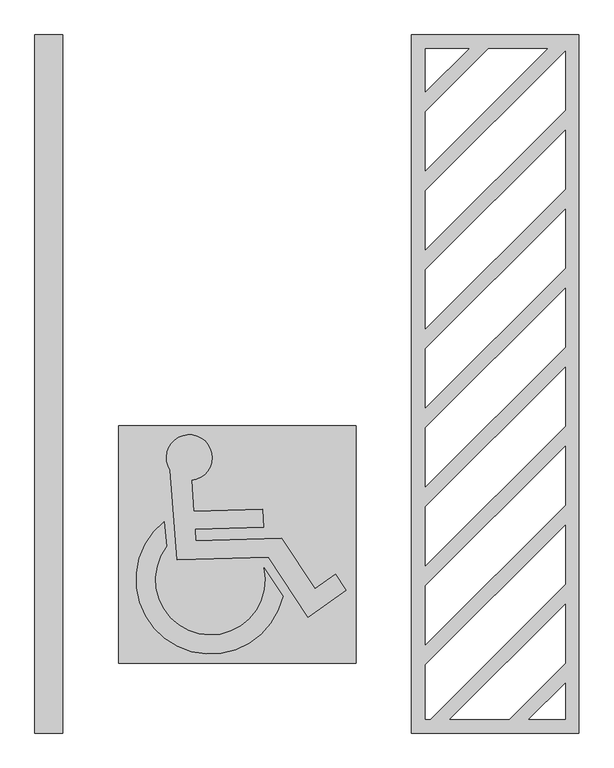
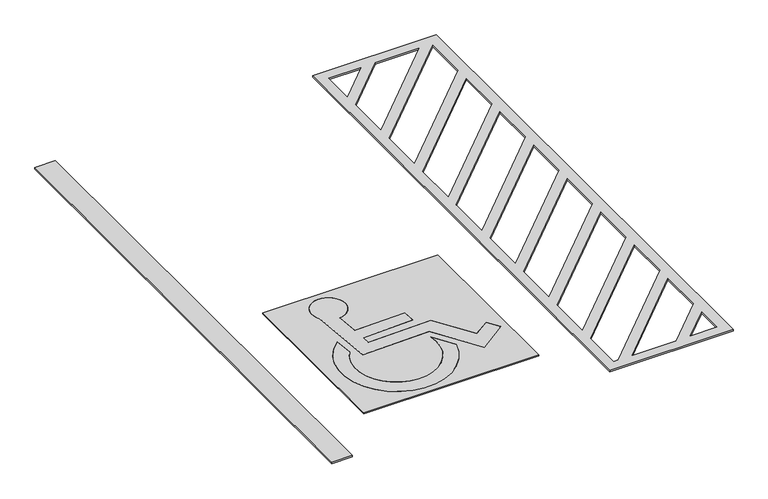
"""IFC4 building model written with IfcOpenShell, lengths in millimetres: proxy geometry, FDE_SI11_SinalizaçãoHorizontalParaVagaAcessível_Vagaa90º : SI11_SinalizaçãoHorizontalParaVagaAcessível_Vagaa90º."""

import ifcopenshell
import ifcopenshell.guid

model = None  # the IFC model being written
_history = None  # IfcOwnerHistory: only IFC2X3 demands one
_inside = {}  # id of a spatial element -> (the spatial element, [elements in it])
_under = {}  # id of a project, library or spatial element -> (it, [spatial elements below it])
_declared = {}  # id of a project -> (the project, [libraries it declares])
_typed = {}  # id of a type object -> (the type object, [elements of that type])
_made_of = {}  # id of a material, layer set ... -> (it, [elements and type objects made of it])


def new_model(schema):
    """Start an empty IFC model of exactly this schema.

    Asked for "IFC4X3", IfcOpenShell would pick the latest addendum, in which some entities
    have other attributes; the version numbers below select the first issue.
    IFC2X3 requires an IfcOwnerHistory on every rooted entity: one is made here for all.
    """
    global model, _history
    if schema == "IFC4X3":
        model = ifcopenshell.file(schema_version=(4, 3, 0, 0))
    else:
        model = ifcopenshell.file(schema=schema)
    _inside.clear()
    _under.clear()
    _declared.clear()
    _typed.clear()
    _made_of.clear()
    _history = None
    if model.schema == "IFC2X3":
        org = make("IfcOrganization", Name="unknown")
        user = make(
            "IfcPersonAndOrganization",
            ThePerson=make("IfcPerson", FamilyName="unknown"),
            TheOrganization=org,
        )
        app = make(
            "IfcApplication",
            ApplicationDeveloper=org,
            Version="unknown",
            ApplicationFullName="unknown",
            ApplicationIdentifier="unknown",
        )
        _history = make(
            "IfcOwnerHistory",
            OwningUser=user,
            OwningApplication=app,
            ChangeAction="ADDED",
            CreationDate=0,
        )
    return model


def make(cls, **values):
    """One entity of the class cls with the attributes given. An attribute that is None is left unset."""
    return model.create_entity(
        cls, **{name: value for name, value in values.items() if value is not None}
    )


def rooted(cls, **values):
    """An entity with a GlobalId (a new one), such as an element, a storey or a relation."""
    return make(cls, GlobalId=ifcopenshell.guid.new(), OwnerHistory=_history, **values)


def si_unit(unit_type, name, prefix=None):
    """IfcSIUnit, for example si_unit("LENGTHUNIT", "METRE", prefix="MILLI")."""
    return make("IfcSIUnit", UnitType=unit_type, Prefix=prefix, Name=name)


def assignment(units):
    """IfcUnitAssignment: the units of a project."""
    return None if units is None else make("IfcUnitAssignment", Units=units)


def point(xyz):
    """IfcCartesianPoint."""
    return None if xyz is None else make("IfcCartesianPoint", Coordinates=xyz)


def direction(xyz):
    """IfcDirection."""
    return None if xyz is None else make("IfcDirection", DirectionRatios=xyz)


def frame(location, z_axis=None, x_axis=None):
    """IfcAxis2Placement3D, a coordinate frame: its origin and axes. An axis left out is left unset."""
    return make(
        "IfcAxis2Placement3D",
        Location=point(location),
        Axis=direction(z_axis),
        RefDirection=direction(x_axis),
    )


def frame_2d(location, x_axis=None):
    """IfcAxis2Placement2D, a coordinate frame in the plane: its origin and x axis."""
    return make(
        "IfcAxis2Placement2D", Location=point(location), RefDirection=direction(x_axis)
    )


def origin():
    """The frame at (0, 0, 0) with its axes left unset."""
    return frame((0.0, 0.0, 0.0))


def origin_with_axes():
    """The frame at (0, 0, 0) with the z axis (0, 0, 1) and the x axis (1, 0, 0) written out."""
    return frame((0.0, 0.0, 0.0), z_axis=(0.0, 0.0, 1.0), x_axis=(1.0, 0.0, 0.0))


def place(relative_to, where):
    """IfcLocalPlacement: puts the frame where relative to a parent placement (None: the world)."""
    return make(
        "IfcLocalPlacement", PlacementRelTo=relative_to, RelativePlacement=where
    )


def context(
    kind, dimensions, precision=None, world=None, true_north=None, identifier=None
):
    """IfcGeometricRepresentationContext, for example the 3D "Model" context."""
    return make(
        "IfcGeometricRepresentationContext",
        ContextIdentifier=identifier,
        ContextType=kind,
        CoordinateSpaceDimension=dimensions,
        Precision=precision,
        WorldCoordinateSystem=world,
        TrueNorth=true_north,
    )


def project(units=None, contexts=None):
    """IfcProject with its units and contexts."""
    return rooted(
        "IfcProject",
        Name="project",
        RepresentationContexts=contexts,
        UnitsInContext=assignment(units),
    )


def spatial(cls, under=None, at=None, **own):
    """A site, building, storey or space (cls), placed at a placement, below another one or the project."""
    s = rooted(cls, ObjectPlacement=at, **own)
    if under is not None:
        _under.setdefault(under.id(), (under, []))[1].append(s)
    return s


def polyline(points):
    """IfcPolyline through the points."""
    return make("IfcPolyline", Points=[point(p) for p in points])


def circle_curve(where, radius):
    """IfcCircle in the frame where."""
    return make("IfcCircle", Position=where, Radius=radius)


def trimmed(basis, trim1, trim2, sense, master):
    """IfcTrimmedCurve: the piece of a basis curve between two trims."""
    return make(
        "IfcTrimmedCurve",
        BasisCurve=basis,
        Trim1=trim1,
        Trim2=trim2,
        SenseAgreement=sense,
        MasterRepresentation=master,
    )


def segment(curve, same_sense, transition):
    """IfcCompositeCurveSegment."""
    return make(
        "IfcCompositeCurveSegment",
        Transition=transition,
        SameSense=same_sense,
        ParentCurve=curve,
    )


def composite_curve(segments, self_intersect=None):
    """IfcCompositeCurve: segments joined end to end."""
    return make("IfcCompositeCurve", Segments=segments, SelfIntersect=self_intersect)


def outline(outer, holes=None, kind="AREA"):
    """IfcArbitraryClosedProfileDef: a profile drawn as a closed curve; with holes, ...WithVoids."""
    if holes is None:
        return make("IfcArbitraryClosedProfileDef", ProfileType=kind, OuterCurve=outer)
    return make(
        "IfcArbitraryProfileDefWithVoids",
        ProfileType=kind,
        OuterCurve=outer,
        InnerCurves=holes,
    )


def extrude(swept, where, along, depth):
    """IfcExtrudedAreaSolid: the profile swept, set in the frame where, extruded along a direction by depth."""
    return make(
        "IfcExtrudedAreaSolid",
        SweptArea=swept,
        Position=where,
        ExtrudedDirection=direction(along),
        Depth=depth,
    )


def shape(context_of_items, identifier, shape_type, items):
    """IfcShapeRepresentation: the items that make up one representation, for example the "Body"."""
    return make(
        "IfcShapeRepresentation",
        ContextOfItems=context_of_items,
        RepresentationIdentifier=identifier,
        RepresentationType=shape_type,
        Items=items,
    )


def source(mapping_origin, context_of_items, identifier, shape_type, items):
    """IfcRepresentationMap: a shape defined once, which mapped items show again and again."""
    return make(
        "IfcRepresentationMap",
        MappingOrigin=mapping_origin,
        MappedRepresentation=shape(context_of_items, identifier, shape_type, items),
    )


def transform(
    local_origin,
    x_axis=None,
    y_axis=None,
    z_axis=None,
    scale=None,
    scale2=None,
    scale3=None,
    uniform=True,
):
    """IfcCartesianTransformationOperator3D, or its non-uniform kind. x_axis, y_axis, z_axis: its Axis1, 2, 3."""
    if uniform:
        return make(
            "IfcCartesianTransformationOperator3D",
            Axis1=direction(x_axis),
            Axis2=direction(y_axis),
            LocalOrigin=point(local_origin),
            Scale=scale,
            Axis3=direction(z_axis),
        )
    return make(
        "IfcCartesianTransformationOperator3DnonUniform",
        Axis1=direction(x_axis),
        Axis2=direction(y_axis),
        LocalOrigin=point(local_origin),
        Scale=scale,
        Axis3=direction(z_axis),
        Scale2=scale2,
        Scale3=scale3,
    )


def mapped(mapping_source, mapping_target):
    """IfcMappedItem: shows the shape of a source again, moved by a transform."""
    return make(
        "IfcMappedItem", MappingSource=mapping_source, MappingTarget=mapping_target
    )


def made_of(thing, what):
    """Note that an element or type object is made of a material, layer set ...; save() writes the relation."""
    if what is not None:
        _made_of.setdefault(what.id(), (what, []))[1].append(thing)
    return thing


def element(
    cls,
    number,
    at=None,
    inside=None,
    cuts=None,
    type_object=None,
    material=None,
    context=None,
    identifier="Body",
    shape_type=None,
    held_by="IfcProductDefinitionShape",
    body=None,
    shapes=None,
    **own,
):
    """One element of the class cls, such as IfcWall. Its Tag is "e" and its number.

    at: its placement. inside: the storey or other place that contains it. cuts: it is an
    opening in that element (IfcRelVoidsElement). A single representation is given by context,
    identifier, shape_type and body (its items); several are given by shapes. held_by: the class
    of the entity that holds the representations. save() writes the other relations.
    """
    e = rooted(cls, Tag="e%d" % number, ObjectPlacement=at, **own)
    if body is not None:
        shapes = [shape(context, identifier, shape_type, body)]
    if shapes is not None:
        e.Representation = make(held_by, Representations=shapes)
    if inside is not None:
        _inside.setdefault(inside.id(), (inside, []))[1].append(e)
    if cuts is not None:
        rooted(
            "IfcRelVoidsElement", RelatingBuildingElement=cuts, RelatedOpeningElement=e
        )
    if type_object is not None:
        _typed.setdefault(type_object.id(), (type_object, []))[1].append(e)
    return made_of(e, material)


def aggregate(whole, parts):
    """IfcRelAggregates: a whole, such as a stair, and the parts it consists of."""
    return rooted("IfcRelAggregates", RelatingObject=whole, RelatedObjects=parts)


def save(model, path):
    """Write the relations noted so far, then the file.

    IfcRelAggregates (storeys below a building ...), IfcRelContainedInSpatialStructure (elements
    in a storey), IfcRelDefinesByType, IfcRelAssociatesMaterial and IfcRelDeclares: one each for
    every whole, place, type object, material and project.
    """
    for whole, parts in _under.values():
        aggregate(whole, parts)
    for where, things in _inside.values():
        rooted(
            "IfcRelContainedInSpatialStructure",
            RelatedElements=things,
            RelatingStructure=where,
        )
    for kind, things in _typed.values():
        rooted("IfcRelDefinesByType", RelatedObjects=things, RelatingType=kind)
    for what, things in _made_of.values():
        rooted("IfcRelAssociatesMaterial", RelatedObjects=things, RelatingMaterial=what)
    for by, libraries in _declared.values():
        rooted("IfcRelDeclares", RelatingContext=by, RelatedDefinitions=libraries)
    model.write(path)


def parking_89ea5a63(model_context):
    return source(origin(), model_context, "Body", "SweptSolid", [
        extrude(outline(composite_curve([segment(polyline([(466.0892817, 238.6752507), (482.4183166, 16.3738832), (976.5566523, 31.4662393), (983.0302344, -95.7406497), (491.0496435, -112.9889866), (495.3651331, -192.7628266), (1110.3408283, -175.5143917), (1349.8578024, -537.7305449), (1498.7465396, -434.2402294), (1574.2917736, -547.3782535), (1301.8411568, -741.2047078), (1017.5550204, -311.3454981), (361.5809572, -328.5938351), (313.1127907, 311.5071546)]), True, "CONTINUOUS"), segment(trimmed(circle_curve(frame_2d((449.7922278, 401.5170792)), 163.6552935), [point((313.1127907, 311.5071546))], [point((466.0892817, 238.6752507))], False, "CARTESIAN"), True, "CONTINUOUS")], self_intersect=False)), origin_with_axes(), (0.0, 0.0, 1.0), 10.0),
        extrude(outline(composite_curve([segment(polyline([(986.7985212, -385.6313806), (1120.621311, -590.1344765)]), True, "CONTINUOUS"), segment(trimmed(circle_curve(frame_2d((601.3448089, -473.4348166)), 532.228237), [point((1120.621311, -590.1344765))], [point((270.3796158, -56.6267826))], False, "CARTESIAN"), True, "CONTINUOUS"), segment(polyline([(270.3796158, -56.6267826), (287.3317476, -233.2686136)]), True, "CONTINUOUS"), segment(trimmed(circle_curve(frame_2d((601.3448089, -473.4348166)), 395.3277219), [point((287.3317476, -233.2686136))], [point((986.7985212, -385.6313806))], True, "CARTESIAN"), True, "CONTINUOUS")], self_intersect=False)), origin_with_axes(), (0.0, 0.0, 1.0), 10.0),
        extrude(outline(polyline([(1643.4697276, 628.6081133), (1643.4697276, -1071.3918867), (-56.5302724, -1071.3918867), (-56.5302724, 628.6081133), (1643.4697276, 628.6081133)]), holes=[composite_curve([segment(polyline([(482.4183166, 16.3738832), (466.0892817, 238.6752507)]), True, "CONTINUOUS"), segment(trimmed(circle_curve(frame_2d((449.7922278, 401.5170792)), 163.6552935), [point((466.0892817, 238.6752507))], [point((313.1127907, 311.5071546))], True, "CARTESIAN"), True, "CONTINUOUS"), segment(polyline([(313.1127907, 311.5071546), (361.5809572, -328.5938351), (1017.5550204, -311.3454981), (1301.8411568, -741.2047078), (1574.2917736, -547.3782535), (1498.7465396, -434.2402294), (1349.8578024, -537.7305449), (1110.3408283, -175.5143917), (495.3651331, -192.7628266), (491.0496435, -112.9889866), (983.0302344, -95.7406497), (976.5566523, 31.4662393), (482.4183166, 16.3738832)]), True, "CONTINUOUS")], self_intersect=False), composite_curve([segment(polyline([(287.3317476, -233.2686136), (270.3796158, -56.6267826)]), True, "CONTINUOUS"), segment(trimmed(circle_curve(frame_2d((601.3448089, -473.4348166)), 532.228237), [point((270.3796158, -56.6267826))], [point((1120.621311, -590.1344765))], True, "CARTESIAN"), True, "CONTINUOUS"), segment(polyline([(1120.621311, -590.1344765), (986.7985212, -385.6313806)]), True, "CONTINUOUS"), segment(trimmed(circle_curve(frame_2d((601.3448089, -473.4348166)), 395.3277219), [point((986.7985212, -385.6313806))], [point((287.3317476, -233.2686136))], False, "CARTESIAN"), True, "CONTINUOUS")], self_intersect=False)]), origin_with_axes(), (0.0, 0.0, 1.0), 10.0),
        extrude(outline(polyline([(-456.5302724, 3428.6081133), (-456.5302724, -1571.3918867), (-656.5302724, -1571.3918867), (-656.5302724, 3428.6081133), (-456.5302724, 3428.6081133)])), origin_with_axes(), (0.0, 0.0, 1.0), 15.0),
        extrude(outline(polyline([(3243.4697275, 3428.6081133), (3243.4697275, -1571.3918867), (2043.4697276, -1571.3918867), (2043.4697276, 3428.6081133), (3243.4697275, 3428.6081133)]), holes=[polyline([(2452.251239, 3328.6081133), (2143.4200635, 3328.6081133), (2143.4200635, 3019.7769379), (2452.251239, 3328.6081133)]), polyline([(2143.4200635, 2878.3555816), (2143.4200635, 2454.0915129), (3017.9366639, 3328.6081133), (2593.6725952, 3328.6081133), (2143.4200635, 2878.3555816)]), polyline([(3143.4200635, 3312.6701567), (2143.4200635, 2312.6701567), (2143.4200635, 1888.406088), (3143.4200635, 2888.406088), (3143.4200635, 3312.6701567)]), polyline([(3143.4200635, 2322.720663), (3143.4200635, 2746.9847317), (2143.4200635, 1746.9847317), (2143.4200635, 1322.720663), (3143.4200635, 2322.720663)]), polyline([(3143.4200635, 2181.2993068), (2143.4200635, 1181.2993068), (2143.4200635, 757.0352381), (3143.4200635, 1757.0352381), (3143.4200635, 2181.2993068)]), polyline([(2143.4200635, 615.6138818), (2143.4200635, 191.3498131), (3143.4200635, 1191.3498131), (3143.4200635, 1615.6138818), (2143.4200635, 615.6138818)]), polyline([(2143.4200635, 49.9284569), (2143.4200635, -374.3356118), (3143.4200635, 625.6643882), (3143.4200635, 1049.9284569), (2143.4200635, 49.9284569)]), polyline([(2143.4200635, -515.7569681), (2143.4200635, -940.0210368), (3143.4200635, 59.9789632), (3143.4200635, 484.2430319), (2143.4200635, -515.7569681)]), polyline([(2143.4200635, -1081.442393), (2143.4200635, -1471.3918867), (2177.7346386, -1471.3918867), (3143.4200635, -505.7064617), (3143.4200635, -81.442393), (2143.4200635, -1081.442393)]), polyline([(3143.4200635, -647.127818), (2319.1559948, -1471.3918867), (2743.4200635, -1471.3918867), (3143.4200635, -1071.3918867), (3143.4200635, -647.127818)]), polyline([(3143.4200635, -1471.3918867), (3143.4200635, -1212.8132429), (2884.8414197, -1471.3918867), (3143.4200635, -1471.3918867)])]), origin_with_axes(), (0.0, 0.0, 1.0), 15.0),
    ])


if __name__ == "__main__":
    model = new_model("IFC4")
    model_context = context("Model", 3, world=origin())
    ifc_project = project(units=[si_unit("LENGTHUNIT", "METRE", prefix="MILLI")], contexts=[model_context])
    site = spatial("IfcSite", under=ifc_project)
    building = spatial("IfcBuilding", under=site)
    placement = place(None, origin())
    parking_shape = parking_89ea5a63(model_context)
    element("IfcBuildingElementProxy", 1, Name="FDE_SI11_SinalizaçãoHorizontalParaVagaAcessível_Vagaa90º : SI11_SinalizaçãoHorizontalParaVagaAcessível_Vagaa90º", ObjectType="FDE_SI11_SinalizaçãoHorizontalParaVagaAcessível_Vagaa90º : SI11_SinalizaçãoHorizontalParaVagaAcessível_Vagaa90º", at=placement, inside=building, context=model_context, shape_type="MappedRepresentation", body=[
        mapped(parking_shape, transform((0.0, 0.0, 0.0), x_axis=(1.0, 0.0, 0.0), y_axis=(0.0, 1.0, 0.0), z_axis=(0.0, 0.0, 1.0))),
    ])
    save(model, "model.ifc")
